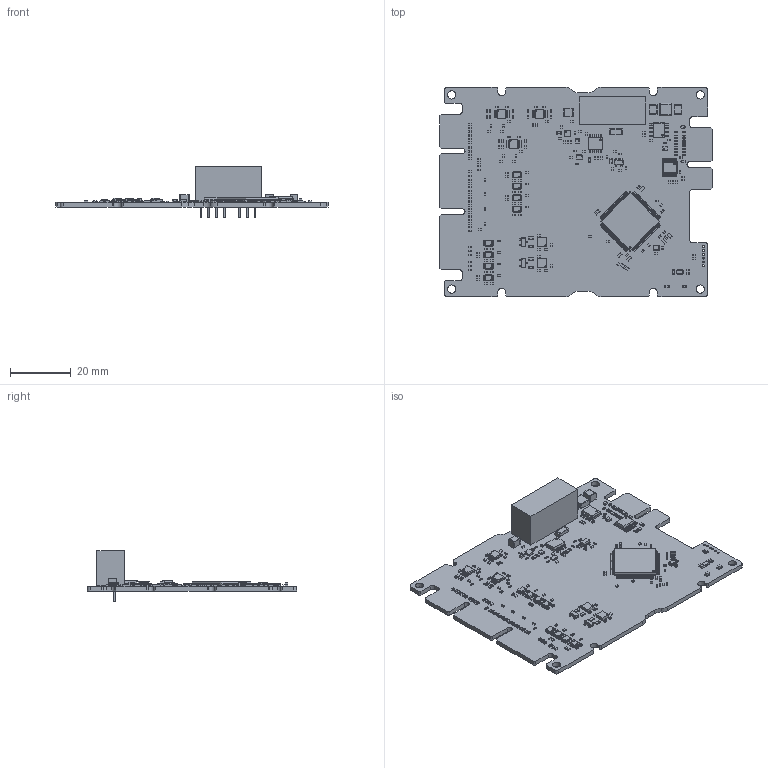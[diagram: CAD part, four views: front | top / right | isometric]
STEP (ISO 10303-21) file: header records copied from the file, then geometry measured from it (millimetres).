
FILE_DESCRIPTION(('KiCad electronic assembly'),'2;1');
FILE_NAME('TB31-001.step','2026-10-12T16:14:58',('Pcbnew'),('Kicad'), 'Open CASCADE STEP processor 7.9','KiCad to STEP converter','Unknown' );
FILE_SCHEMA(('AUTOMOTIVE_DESIGN { 1 0 10303 214 1 1 1 1 }'));
Length unit declared in the file: millimetre
Products named in the file (27): TB31-001 1; R_0402_1005Metric; C_0402_1005Metric; C_1210_3225Metric; L_0402_1005Metric; VSSOP-8_2.3x2mm_P0.5mm; LQFP-100_14x14mm_P0.5mm; SOT-563; SOIC-8-1EP_3.9x4.9mm_P1.27mm_EP2.41x3.81mm; VSSOP-8_3x3mm_P0.65mm; C_0603_1608Metric; D_SOD-523; R_0603_1608Metric; SOT-23-5; C_1808_4520Metric; SOT-23; SOT-583-8; SOT-553; VSON-10-1EP_3x3mm_P0.5mm_EP1.2x2mm; L_Changjiang_FNR4018S; Converter_DCDC_TRACO_TEC2-12xxWI_24xxWI_48xxWI_THT; WSON-6-1EP_2x2mm_P0.65mm_EP1x1.6mm; LED_0603_1608Metric; Crystal_SMD_2016-4Pin_2.0x1.6mm; SOIC-8_3.9x4.9mm_P1.27mm; SSOP-16_3.9x4.9mm_P0.635mm; AD0385-com_PCB
Assembly tree (241 placements, depth 2):
  TB31-001 1
    R_0402_1005Metric  x97
    C_0402_1005Metric  x57
    C_1210_3225Metric  x3
    L_0402_1005Metric  x37
    VSSOP-8_2.3x2mm_P0.5mm  x8
    LQFP-100_14x14mm_P0.5mm
    SOT-563
    SOIC-8-1EP_3.9x4.9mm_P1.27mm_EP2.41x3.81mm
    VSSOP-8_3x3mm_P0.65mm  x3
    C_0603_1608Metric  x8
    D_SOD-523  x2
    R_0603_1608Metric  x5
    SOT-23-5
    C_1808_4520Metric
    SOT-23  x2
    SOT-583-8  x2
    SOT-553
    VSON-10-1EP_3x3mm_P0.5mm_EP1.2x2mm  x2
    L_Changjiang_FNR4018S
    Converter_DCDC_TRACO_TEC2-12xxWI_24xxWI_48xxWI_THT
    WSON-6-1EP_2x2mm_P0.65mm_EP1x1.6mm
    LED_0603_1608Metric  x2
    Crystal_SMD_2016-4Pin_2.0x1.6mm
    SOIC-8_3.9x4.9mm_P1.27mm
    SSOP-16_3.9x4.9mm_P0.635mm
    AD0385-com_PCB
Bounding box: 90 x 69 x 16.7 mm (x, y, z)
Volume: 11750.4 mm3; surface area: 15546.7 mm2
Topology: 241 solids, 241 shells, 10486 faces, 27516 edges, 17762 vertices
Faces by surface type: plane 6891, cylinder 3188, bspline 367, torus 36, sphere 4
Full cylindrical faces by diameter (mm): 0.1 x2, 0.25 x3, 0.35 x2, 0.58 x7, 0.65 x6, 1 x7, 2.7 x4
Entity records: 139223 total; most frequent: CARTESIAN_POINT 22111, ORIENTED_EDGE 18332, DIRECTION 17658, EDGE_CURVE 9168, LINE 7122, VECTOR 7122, VERTEX_POINT 5810, AXIS2_PLACEMENT_3D 5268
